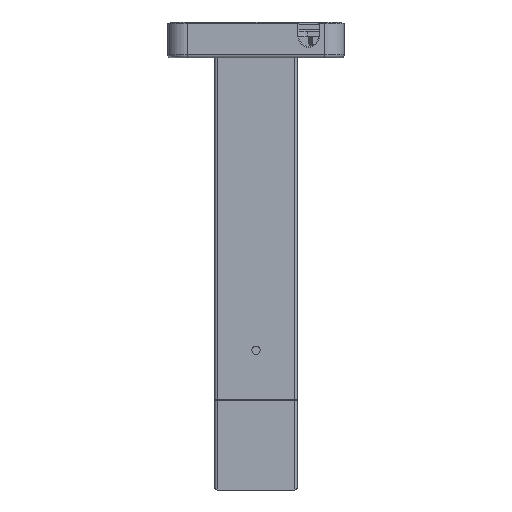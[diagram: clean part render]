
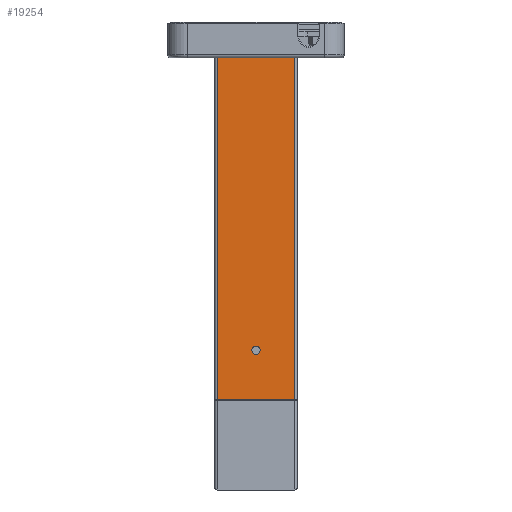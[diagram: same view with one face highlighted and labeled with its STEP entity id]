
A CAD part, front view. The second image highlights one B-rep face of the part: STEP entity #19254.
In plain terms, the highlighted planar face has unit normal (0, -1, 0).
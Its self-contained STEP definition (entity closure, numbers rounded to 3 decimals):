
#982 = CARTESIAN_POINT ( 'NONE',  ( 223.8, -15., 25. ) ) ;
#1029 = DIRECTION ( 'NONE',  ( -1., 0., 0. ) ) ;
#1279 = VERTEX_POINT ( 'NONE', #27173 ) ;
#1406 = CARTESIAN_POINT ( 'NONE',  ( 223.8, -15., -23.5 ) ) ;
#1597 = EDGE_CURVE ( 'NONE', #1279, #6074, #20421, .T. ) ;
#1639 = EDGE_CURVE ( 'NONE', #14914, #34663, #16327, .T. ) ;
#2400 = ORIENTED_EDGE ( 'NONE', *, *, #16174, .F. ) ;
#3626 = CARTESIAN_POINT ( 'NONE',  ( 0., -15., 17.75 ) ) ;
#3845 = FACE_BOUND ( 'NONE', #7758, .T. ) ;
#4087 = CARTESIAN_POINT ( 'NONE',  ( 0., -15., 4.25 ) ) ;
#4268 = CARTESIAN_POINT ( 'NONE',  ( 0., -15., -23.5 ) ) ;
#5027 = CIRCLE ( 'NONE', #26478, 6.75 ) ;
#5160 = CARTESIAN_POINT ( 'NONE',  ( 8., -15., 4.25 ) ) ;
#5192 = DIRECTION ( 'NONE',  ( 0., 1., 0. ) ) ;
#5269 = DIRECTION ( 'NONE',  ( 0., 0., -1. ) ) ;
#6074 = VERTEX_POINT ( 'NONE', #4268 ) ;
#6769 = DIRECTION ( 'NONE',  ( 0., 0., -1. ) ) ;
#7153 = DIRECTION ( 'NONE',  ( 0., -1., 0. ) ) ;
#7758 = EDGE_LOOP ( 'NONE', ( #2400, #37580 ) ) ;
#8151 = CARTESIAN_POINT ( 'NONE',  ( 193.8, -15., -2.5 ) ) ;
#8987 = EDGE_LOOP ( 'NONE', ( #26903, #26024, #33090, #34901, #26597, #35886, #16421, #28008 ) ) ;
#9076 = LINE ( 'NONE', #15042, #12908 ) ;
#9146 = VECTOR ( 'NONE', #30366, 1000. ) ;
#10289 = CARTESIAN_POINT ( 'NONE',  ( 223.8, -15., 25. ) ) ;
#10362 = DIRECTION ( 'NONE',  ( 0., 0., 1. ) ) ;
#10598 = EDGE_CURVE ( 'NONE', #14914, #26935, #34061, .T. ) ;
#10772 = CARTESIAN_POINT ( 'NONE',  ( 8., -15., 11. ) ) ;
#12191 = EDGE_CURVE ( 'NONE', #24410, #1279, #30374, .T. ) ;
#12295 = VERTEX_POINT ( 'NONE', #8151 ) ;
#12908 = VECTOR ( 'NONE', #26727, 1000. ) ;
#13032 = LINE ( 'NONE', #24719, #19158 ) ;
#13299 = CIRCLE ( 'NONE', #37795, 2.5 ) ;
#13458 = DIRECTION ( 'NONE',  ( -1., 0., 0. ) ) ;
#13506 = CARTESIAN_POINT ( 'NONE',  ( 223.8, -15., 23.5 ) ) ;
#14914 = VERTEX_POINT ( 'NONE', #13506 ) ;
#15042 = CARTESIAN_POINT ( 'NONE',  ( 8., -15., 17.75 ) ) ;
#15522 = VERTEX_POINT ( 'NONE', #37141 ) ;
#15546 = CARTESIAN_POINT ( 'NONE',  ( 0., -15., 23.5 ) ) ;
#15747 = PLANE ( 'NONE',  #17667 ) ;
#16174 = EDGE_CURVE ( 'NONE', #12295, #32160, #30389, .T. ) ;
#16327 = LINE ( 'NONE', #36476, #32748 ) ;
#16421 = ORIENTED_EDGE ( 'NONE', *, *, #36375, .T. ) ;
#17667 = AXIS2_PLACEMENT_3D ( 'NONE', #982, #36465, #10362 ) ;
#18604 = FACE_OUTER_BOUND ( 'NONE', #8987, .T. ) ;
#19158 = VECTOR ( 'NONE', #24351, 1000. ) ;
#19254 = ADVANCED_FACE ( 'NONE', ( #3845, #18604 ), #15747, .F. ) ;
#20421 = LINE ( 'NONE', #23117, #32132 ) ;
#20479 = VECTOR ( 'NONE', #1029, 1000. ) ;
#20752 = DIRECTION ( 'NONE',  ( 0., 0., -1. ) ) ;
#20847 = CARTESIAN_POINT ( 'NONE',  ( 193.8, -15., 2.5 ) ) ;
#22115 = VECTOR ( 'NONE', #33689, 1000. ) ;
#23117 = CARTESIAN_POINT ( 'NONE',  ( 0., -15., 25. ) ) ;
#23940 = EDGE_CURVE ( 'NONE', #32160, #12295, #13299, .T. ) ;
#24351 = DIRECTION ( 'NONE',  ( 0., 0., -1. ) ) ;
#24410 = VERTEX_POINT ( 'NONE', #5160 ) ;
#24719 = CARTESIAN_POINT ( 'NONE',  ( 0., -15., 25. ) ) ;
#25490 = VERTEX_POINT ( 'NONE', #3626 ) ;
#25762 = CARTESIAN_POINT ( 'NONE',  ( 223.8, -15., -23.5 ) ) ;
#26024 = ORIENTED_EDGE ( 'NONE', *, *, #12191, .T. ) ;
#26478 = AXIS2_PLACEMENT_3D ( 'NONE', #10772, #5192, #28424 ) ;
#26597 = ORIENTED_EDGE ( 'NONE', *, *, #10598, .F. ) ;
#26727 = DIRECTION ( 'NONE',  ( 1., 0., 0. ) ) ;
#26903 = ORIENTED_EDGE ( 'NONE', *, *, #34378, .T. ) ;
#26935 = VERTEX_POINT ( 'NONE', #25762 ) ;
#27173 = CARTESIAN_POINT ( 'NONE',  ( 0., -15., 4.25 ) ) ;
#27496 = CARTESIAN_POINT ( 'NONE',  ( 193.8, -15., 0. ) ) ;
#27677 = LINE ( 'NONE', #1406, #9146 ) ;
#28008 = ORIENTED_EDGE ( 'NONE', *, *, #31570, .T. ) ;
#28424 = DIRECTION ( 'NONE',  ( 0., 0., 1. ) ) ;
#28549 = AXIS2_PLACEMENT_3D ( 'NONE', #32640, #35338, #20752 ) ;
#30099 = EDGE_CURVE ( 'NONE', #6074, #26935, #27677, .T. ) ;
#30366 = DIRECTION ( 'NONE',  ( 1., 0., 0. ) ) ;
#30374 = LINE ( 'NONE', #4087, #20479 ) ;
#30389 = CIRCLE ( 'NONE', #28549, 2.5 ) ;
#31570 = EDGE_CURVE ( 'NONE', #25490, #15522, #9076, .T. ) ;
#32132 = VECTOR ( 'NONE', #5269, 1000. ) ;
#32160 = VERTEX_POINT ( 'NONE', #20847 ) ;
#32640 = CARTESIAN_POINT ( 'NONE',  ( 193.8, -15., 0. ) ) ;
#32748 = VECTOR ( 'NONE', #13458, 1000. ) ;
#33090 = ORIENTED_EDGE ( 'NONE', *, *, #1597, .T. ) ;
#33689 = DIRECTION ( 'NONE',  ( 0., 0., -1. ) ) ;
#34061 = LINE ( 'NONE', #10289, #22115 ) ;
#34378 = EDGE_CURVE ( 'NONE', #15522, #24410, #5027, .T. ) ;
#34663 = VERTEX_POINT ( 'NONE', #15546 ) ;
#34901 = ORIENTED_EDGE ( 'NONE', *, *, #30099, .T. ) ;
#35338 = DIRECTION ( 'NONE',  ( 0., -1., 0. ) ) ;
#35886 = ORIENTED_EDGE ( 'NONE', *, *, #1639, .T. ) ;
#36375 = EDGE_CURVE ( 'NONE', #34663, #25490, #13032, .T. ) ;
#36465 = DIRECTION ( 'NONE',  ( 0., 1., 0. ) ) ;
#36476 = CARTESIAN_POINT ( 'NONE',  ( 223.8, -15., 23.5 ) ) ;
#37141 = CARTESIAN_POINT ( 'NONE',  ( 8., -15., 17.75 ) ) ;
#37580 = ORIENTED_EDGE ( 'NONE', *, *, #23940, .F. ) ;
#37795 = AXIS2_PLACEMENT_3D ( 'NONE', #27496, #7153, #6769 ) ;
